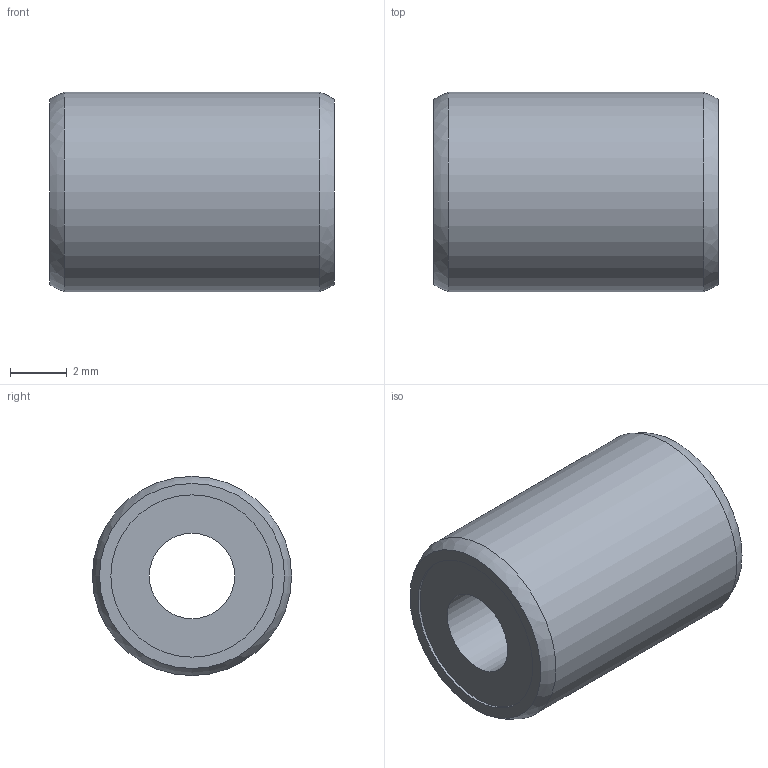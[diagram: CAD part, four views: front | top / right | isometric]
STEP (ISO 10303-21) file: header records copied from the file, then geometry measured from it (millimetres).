
FILE_DESCRIPTION((''),'2;1');
FILE_NAME('D:\製品 (図面)\カタログ用3D\リニアベアリング関連\STEP形式\L\L3.stp','2010-06-02T17:13:37',('Tsuchiya'),(''),'Autodesk Inventor 10','Autodesk Inventor 10','');
FILE_SCHEMA(('AUTOMOTIVE_DESIGN { 1 0 10303 214 1 1 1 1 }'));
Length unit declared in the file: millimetre
Products named in the file (1): L3
Bounding box: 10 x 7 x 7 mm (x, y, z)
Volume: 308.1 mm3; surface area: 369.9 mm2
Topology: 1 solids, 1 shells, 10 faces, 16 edges, 10 vertices
Faces by surface type: plane 4, cylinder 4, bspline 2
Full cylindrical faces by diameter (mm): 3 x1, 5.7 x2, 7 x1
Entity records: 275 total; most frequent: CARTESIAN_POINT 83, DIRECTION 38, ORIENTED_EDGE 20, EDGE_LOOP 20, AXIS2_PLACEMENT_3D 19, VERTEX_POINT 10, CIRCLE 10, EDGE_CURVE 10
